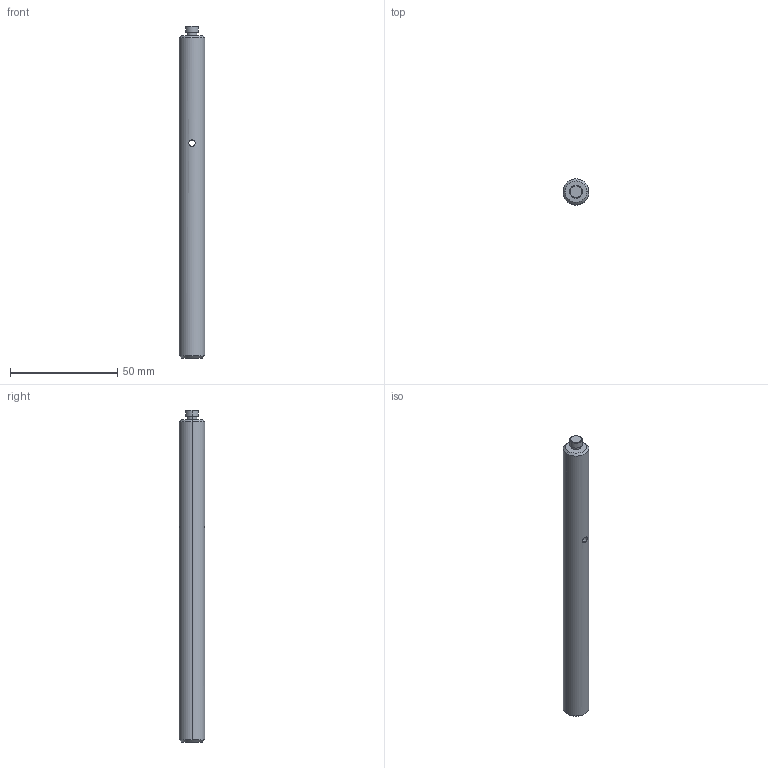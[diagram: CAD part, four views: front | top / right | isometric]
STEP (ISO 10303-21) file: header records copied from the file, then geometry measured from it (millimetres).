
FILE_DESCRIPTION (( 'STEP AP203' ), '1' );
FILE_NAME ('PHSP12-5.step', '2019-05-09T09:08:09', ( '' ), ( '' ), 'SwSTEP 2.0', 'SolidWorks 2016', '' );
FILE_SCHEMA (( 'CONFIG_CONTROL_DESIGN' ));
Length unit declared in the file: millimetre
Products named in the file (1): PHSP12-5
Bounding box: 12 x 12 x 154.5 mm (x, y, z)
Volume: 16628.7 mm3; surface area: 6285 mm2
Topology: 1 solids, 1 shells, 22 faces, 46 edges, 27 vertices
Faces by surface type: cylinder 10, cone 8, plane 4
Entity records: 751 total; most frequent: CARTESIAN_POINT 198, DIRECTION 108, ORIENTED_EDGE 88, AXIS2_PLACEMENT_3D 45, EDGE_CURVE 44, VERTEX_POINT 27, EDGE_LOOP 27, FACE_OUTER_BOUND 22
